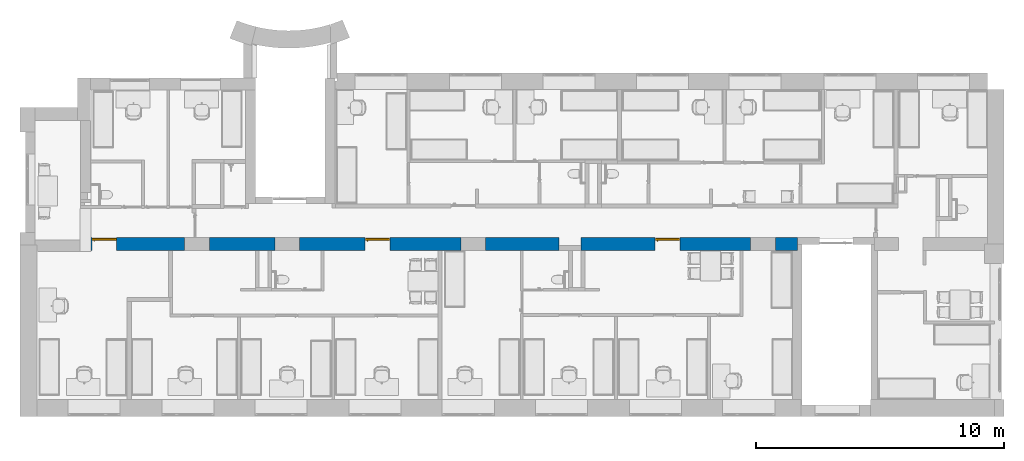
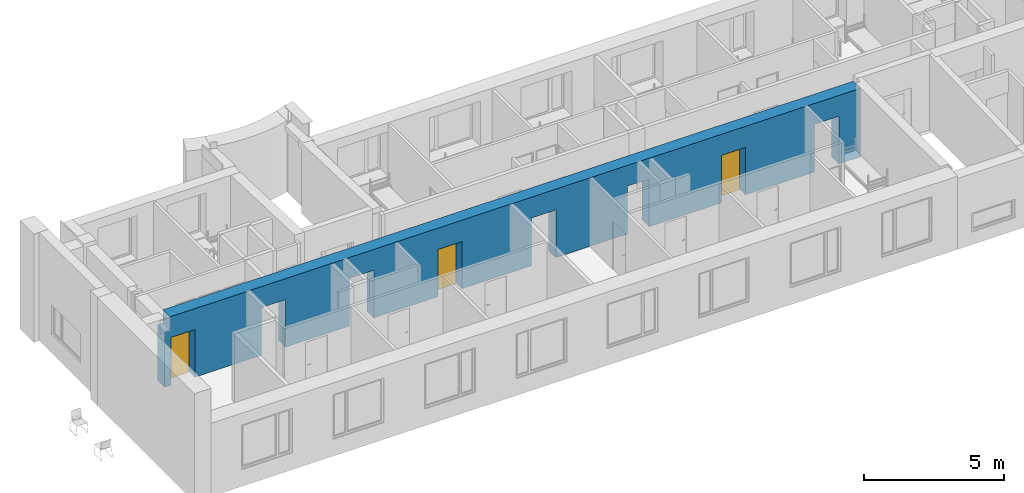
# One storey, part 16 of 46: 3 doors, 1 wall, 3 openings.
"""IFC2X3 building model written with IfcOpenShell, lengths in millimetres."""

from ifc_helpers import new_model, entity, si_unit, converted_unit, derived_unit, direction, frame, frame_2d, origin, place, context, subcontext, project, spatial, rectangle, extrude, faceted_brep, source, transform, mapped, material, material_list, layer, layer_set, type_object, type_shapes, element, fill, save


model = new_model("IFC2X3")

# Units and contexts
model_context = context("Model", 3, precision=0.01, world=origin(), true_north=direction((6.12303176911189e-17, 1.0)))
body_context = subcontext(model_context, "Body", "Model", "MODEL_VIEW")
ifc_project = project(units=[si_unit("LENGTHUNIT", "METRE", prefix="MILLI"), si_unit("AREAUNIT", "SQUARE_METRE"), si_unit("VOLUMEUNIT", "CUBIC_METRE"), converted_unit("PLANEANGLEUNIT", "DEGREE", entity("IfcRatioMeasure", 0.0174532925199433), si_unit("PLANEANGLEUNIT", "RADIAN"), dimensions=[0, 0, 0, 0, 0, 0, 0]), si_unit("MASSUNIT", "GRAM", prefix="KILO"), derived_unit("MASSDENSITYUNIT", [(si_unit("MASSUNIT", "GRAM", prefix="KILO"), 1), (si_unit("LENGTHUNIT", "METRE"), -3)]), si_unit("TIMEUNIT", "SECOND"), si_unit("FREQUENCYUNIT", "HERTZ"), si_unit("THERMODYNAMICTEMPERATUREUNIT", "DEGREE_CELSIUS"), derived_unit("THERMALTRANSMITTANCEUNIT", [(si_unit("MASSUNIT", "GRAM", prefix="KILO"), 1), (si_unit("THERMODYNAMICTEMPERATUREUNIT", "KELVIN"), -1), (si_unit("TIMEUNIT", "SECOND"), -3)]), derived_unit("VOLUMETRICFLOWRATEUNIT", [(si_unit("LENGTHUNIT", "METRE"), 3), (si_unit("TIMEUNIT", "SECOND"), -1)]), si_unit("ELECTRICCURRENTUNIT", "AMPERE"), si_unit("ELECTRICVOLTAGEUNIT", "VOLT"), si_unit("POWERUNIT", "WATT"), si_unit("FORCEUNIT", "NEWTON", prefix="KILO"), si_unit("ILLUMINANCEUNIT", "LUX"), si_unit("LUMINOUSFLUXUNIT", "LUMEN"), si_unit("LUMINOUSINTENSITYUNIT", "CANDELA"), derived_unit("USERDEFINED", [(si_unit("MASSUNIT", "GRAM", prefix="KILO"), -1), (si_unit("LENGTHUNIT", "METRE"), -2), (si_unit("TIMEUNIT", "SECOND"), 3), (si_unit("LUMINOUSFLUXUNIT", "LUMEN"), 1)]), derived_unit("LINEARVELOCITYUNIT", [(si_unit("LENGTHUNIT", "METRE"), 1), (si_unit("TIMEUNIT", "SECOND"), -1)]), si_unit("PRESSUREUNIT", "PASCAL"), derived_unit("USERDEFINED", [(si_unit("LENGTHUNIT", "METRE"), -2), (si_unit("MASSUNIT", "GRAM", prefix="KILO"), 1), (si_unit("TIMEUNIT", "SECOND"), -2)]), derived_unit("LINEARFORCEUNIT", [(si_unit("MASSUNIT", "GRAM", prefix="KILO"), 1), (si_unit("LENGTHUNIT", "METRE"), 1), (si_unit("TIMEUNIT", "SECOND"), -2), (si_unit("LENGTHUNIT", "METRE"), -1)]), derived_unit("PLANARFORCEUNIT", [(si_unit("MASSUNIT", "GRAM", prefix="KILO"), 1), (si_unit("LENGTHUNIT", "METRE"), 1), (si_unit("TIMEUNIT", "SECOND"), -2), (si_unit("LENGTHUNIT", "METRE"), -2)])], contexts=[model_context])

# Site, building, storey
site_placement = place(None, origin())
site = spatial("IfcSite", under=ifc_project, at=site_placement, Name="Default", CompositionType="ELEMENT")
building_placement = place(site_placement, origin())
building = spatial("IfcBuilding", under=site, at=building_placement, Name="SMA ARH", CompositionType="ELEMENT")
storey_placement = place(building_placement, frame((0.0, 0.0, 9910.0)))
storey = spatial("IfcBuildingStorey", under=building, at=storey_placement, Name="4 Korrus", CompositionType="ELEMENT", Elevation=9909.9999999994)

# Wall, openings, doors
ifc_material_1 = material(Name="_ol.olev sein")
ifc_layer = layer(ifc_material_1, 510.0)
ifc_layer_set = layer_set([ifc_layer], Name="Basic Wall:Generic - 510mm")
wall_type = type_object("IfcWallType", Name="Basic Wall:Generic - 510mm", PredefinedType="STANDARD", material=ifc_layer_set)
wall_placement = place(storey_placement, frame((1941.80783715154, 6265.0, 0.0)))
wall = element("IfcWall", 1, at=wall_placement, inside=storey, type_object=wall_type, Name="Basic Wall:Generic - 510mm", ObjectType="Basic Wall:Generic - 510mm", context=body_context, shape_type="Brep", body=[
    faceted_brep([(28698.1921628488, -255.0, 0.0), (28698.1921628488, -255.0, 3001.0500000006), (28508.1921628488, -255.0, 3001.0500000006), (17646.1921628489, -255.0, 3001.0500000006), (17530.1921628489, -255.0, 3001.0500000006), (14378.6921628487, -255.0, 3001.0500000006), (14216.1921628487, -255.0, 3001.0500000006), (225.0, -255.0, 3001.0500000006), (225.0, -255.0, 2431.98697047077), (0.0, -255.0, 2431.98697047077), (0.0, -255.0, 10.0), (253.192162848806, -255.0, 10.0), (253.192162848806, -255.0, 2090.0), (1253.19216284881, -255.0, 2090.0), (1253.19216284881, -255.0, 10.0), (3988.19216284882, -255.0, 10.0), (3988.19216284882, -255.0, 2090.0), (4988.19216284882, -255.0, 2090.0), (4988.19216284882, -255.0, 10.0), (7633.1921628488, -255.0, 10.0), (7633.1921628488, -255.0, 2090.0), (8633.1921628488, -255.0, 2090.0), (8633.1921628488, -255.0, 10.0), (11268.1921628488, -255.0, 10.0), (11268.1921628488, -255.0, 2070.0), (12268.1921628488, -255.0, 2070.0), (12268.1921628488, -255.0, 10.0), (14216.1921628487, -255.0, 10.0), (14378.6921628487, -255.0, 10.0), (15133.1921628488, -255.0, 10.0), (15133.1921628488, -255.0, 2090.0), (16133.1921628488, -255.0, 2090.0), (16133.1921628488, -255.0, 10.0), (19092.1921628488, -255.0, 10.0), (19092.1921628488, -255.0, 2090.0), (19978.1921628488, -255.0, 2090.0), (19978.1921628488, -255.0, 10.0), (22961.4806447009, -255.0, 10.0), (22961.4806447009, -255.0, 2080.0), (23961.4806447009, -255.0, 2080.0), (23961.4806447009, -255.0, 10.0), (26808.1921628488, -255.0, 10.0), (26808.1921628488, -255.0, 2090.0), (27808.1921628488, -255.0, 2090.0), (27808.1921628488, -255.0, 10.0), (28508.1921628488, -255.0, 10.0), (28508.1921628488, -255.0, 0.0), (225.0, 255.0, 3001.0500000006), (4293.51346331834, 255.0, 3001.0500000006), (4456.01346331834, 255.0, 3001.0500000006), (28508.1921628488, 255.0, 3001.0500000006), (28698.1921628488, 255.0, 3001.0500000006), (28698.1921628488, 255.0, 10.0), (27808.1921628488, 255.0, 10.0), (27808.1921628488, 255.0, 2090.0), (26808.1921628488, 255.0, 2090.0), (26808.1921628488, 255.0, 10.0), (23961.4806447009, 255.0, 10.0), (23961.4806447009, 255.0, 2080.0), (22961.4806447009, 255.0, 2080.0), (22961.4806447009, 255.0, 10.0), (19978.1921628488, 255.0, 10.0), (19978.1921628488, 255.0, 2090.0), (19092.1921628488, 255.0, 2090.0), (19092.1921628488, 255.0, 10.0), (16133.1921628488, 255.0, 10.0), (16133.1921628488, 255.0, 2090.0), (15133.1921628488, 255.0, 2090.0), (15133.1921628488, 255.0, 10.0), (12268.1921628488, 255.0, 10.0), (12268.1921628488, 255.0, 2070.0), (11268.1921628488, 255.0, 2070.0), (11268.1921628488, 255.0, 10.0), (8633.19216284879, 255.0, 10.0), (8633.1921628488, 255.0, 2090.0), (7633.1921628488, 255.0, 2090.0), (7633.1921628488, 255.0, 10.0), (4988.19216284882, 255.0, 10.0), (4988.19216284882, 255.0, 2090.0), (3988.19216284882, 255.0, 2090.0), (3988.19216284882, 255.0, 10.0), (1253.19216284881, 255.0, 10.0), (1253.19216284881, 255.0, 2090.0), (253.192162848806, 255.0, 2090.0), (253.192162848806, 255.0, 10.0), (223.192162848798, 255.0, 10.0), (223.192162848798, 255.0, 0.0), (0.0, 255.0, 0.0), (0.0, 255.0, 2431.98697047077), (225.0, 255.0, 2431.98697047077), (28508.1921628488, 225.0, 0.0), (28698.1921628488, 225.0, 0.0), (28698.1921628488, -25.0, 0.0), (28698.1921628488, 225.0, 10.0), (28698.1921628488, -25.0, 3001.0500000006), (28508.1921628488, 225.0, 10.0), (0.0, 155.0, 0.0), (0.0, 0.0, 0.0), (0.0, 0.0, 10.0), (0.0, 155.0, 2431.98697047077), (223.192162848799, 0.0, 10.0), (223.192162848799, 0.0, 0.0)], [[[0, 1, 2, 3, 4, 5, 6, 7, 8, 9, 10, 11, 12, 13, 14, 15, 16, 17, 18, 19, 20, 21, 22, 23, 24, 25, 26, 27, 28, 29, 30, 31, 32, 33, 34, 35, 36, 37, 38, 39, 40, 41, 42, 43, 44, 45, 46]], [[47, 48, 49, 50, 51, 52, 53, 54, 55, 56, 57, 58, 59, 60, 61, 62, 63, 64, 65, 66, 67, 68, 69, 70, 71, 72, 73, 74, 75, 76, 77, 78, 79, 80, 81, 82, 83, 84, 85, 86, 87, 88, 89]], [[0, 46, 90, 91, 92]], [[1, 0, 92, 91, 93, 52, 51, 94]], [[7, 6, 5, 4, 3, 2, 1, 94, 51, 50, 49, 48, 47]], [[13, 82, 81, 14]], [[82, 13, 12, 83]], [[83, 12, 11, 84]], [[25, 70, 69, 26]], [[70, 25, 24, 71]], [[71, 24, 23, 72]], [[39, 58, 57, 40]], [[58, 39, 38, 59]], [[59, 38, 37, 60]], [[42, 55, 54, 43]], [[55, 42, 41, 56]], [[43, 54, 53, 44]], [[34, 63, 62, 35]], [[63, 34, 33, 64]], [[30, 67, 66, 31]], [[67, 30, 29, 68]], [[31, 66, 65, 32]], [[20, 75, 74, 21]], [[75, 20, 19, 76]], [[21, 74, 73, 22]], [[16, 79, 78, 17]], [[79, 16, 15, 80]], [[17, 78, 77, 18]], [[93, 95, 45, 44, 53, 52]], [[45, 95, 90, 46]], [[35, 62, 61, 36]], [[88, 87, 96, 97, 98, 10, 9, 99]], [[89, 88, 99, 9, 8]], [[7, 47, 89, 8]], [[100, 98, 97, 101]], [[85, 100, 101, 86]], [[95, 93, 91, 90]], [[98, 100, 85, 84, 11, 10]], [[15, 14, 81, 80]], [[19, 18, 77, 76]], [[23, 22, 73, 72]], [[29, 28, 27, 26, 69, 68]], [[33, 32, 65, 64]], [[37, 36, 61, 60]], [[41, 40, 57, 56]], [[87, 86, 101, 97, 96]]]),
])
opening_1_placement = place(wall_placement, frame((12268.1921628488, 255.0, 0.0)))
opening_1 = element("IfcOpeningElement", 2, at=opening_1_placement, cuts=wall, Name="SMA_D01, 1-poolne:SU-P-04 - 1000x2070 EI-30:1", ObjectType="Opening", context=body_context, shape_type="SweptSolid", body=[
    extrude(rectangle(XDim=2069.99999999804, YDim=1000.0, at=frame_2d((1034.99999999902, 500.0), x_axis=(1.0, 0.0))), frame((0.0, 0.0, 0.0), z_axis=(0.0, -1.0, 0.0), x_axis=(0.0, 0.0, 1.0)), (0.0, 0.0, 1.0), 510.0),
])
opening_2_placement = place(wall_placement, frame((1253.19216284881, 255.0, 0.0)))
opening_2 = element("IfcOpeningElement", 3, at=opening_2_placement, cuts=wall, Name="SMA_D01, 1-poolne:SU-P-09 - 1000x2090:1", ObjectType="Opening", context=body_context, shape_type="SweptSolid", body=[
    extrude(rectangle(XDim=2089.99999999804, YDim=1000.0, at=frame_2d((1044.99999999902, 500.0), x_axis=(1.0, 0.0))), frame((0.0, 0.0, 0.0), z_axis=(0.0, -1.0, 0.0), x_axis=(0.0, 0.0, 1.0)), (0.0, 0.0, 1.0), 510.0),
])
opening_3_placement = place(wall_placement, frame((23961.4806447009, 255.0, 0.0)))
opening_3 = element("IfcOpeningElement", 4, at=opening_3_placement, cuts=wall, Name="SMA_D01, 1-poolne:SU-P-04 - 1000x2080 EI-30:1", ObjectType="Opening", context=body_context, shape_type="SweptSolid", body=[
    extrude(rectangle(XDim=2079.99999999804, YDim=1000.0, at=frame_2d((1039.99999999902, 499.999999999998), x_axis=(1.0, 0.0))), frame((0.0, 0.0, 0.0), z_axis=(0.0, -1.0, 0.0), x_axis=(0.0, 0.0, 1.0)), (0.0, 0.0, 1.0), 510.0),
])
ifc_material_2 = material(Name="EST. Metall. Alumiinium. Värvitud. RAL7023 (Concrete grey)")
ifc_material_3 = material(Name="<Unnamed>")
ifc_material_4 = material(Name="EST. Klaas. 3x. Default")
ifc_material_list_1 = material_list([ifc_material_2, ifc_material_3, ifc_material_2, ifc_material_2, ifc_material_3, ifc_material_3, ifc_material_4])
door_style_1 = type_object("IfcDoorStyle", Name="SMA_D01, 1-poolne:SU-P-04 - 1000x2070 EI-30", ConstructionType="NOTDEFINED", OperationType="NOTDEFINED", ParameterTakesPrecedence=False, Sizeable=False, material=ifc_material_list_1)
shared_shape_1 = source(origin(), body_context, "Body", "Brep", [
    faceted_brep([(890.0, 20.0, 1112.5), (795.0, 20.0, 1112.5), (795.0, 15.0, 1112.5), (915.0, 15.0, 1112.5), (915.0, 58.0, 1112.5), (890.0, 58.0, 1112.5), (890.0, 20.0, 1087.5), (890.0, 58.0, 1087.5), (915.0, 58.0, 1087.5), (915.0, 15.0, 1087.5), (795.0, 15.0, 1087.5), (795.0, 20.0, 1087.5)], [[[0, 1, 2, 3, 4, 5]], [[6, 7, 8, 9, 10, 11]], [[5, 7, 6, 0]], [[4, 8, 7, 5]], [[3, 9, 8, 4]], [[2, 10, 9, 3]], [[1, 11, 10, 2]], [[0, 6, 11, 1]]]),
    faceted_brep([(877.500000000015, 58.0, 1137.5), (927.500000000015, 58.0, 1137.5), (927.500000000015, 60.0, 1137.5), (877.500000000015, 60.0, 1137.5), (877.500000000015, 58.0, 1017.5), (877.500000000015, 60.0, 1017.5), (927.500000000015, 60.0, 1017.5), (927.500000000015, 58.0, 1017.5)], [[[0, 1, 2, 3]], [[4, 5, 6, 7]], [[3, 5, 4, 0]], [[2, 6, 5, 3]], [[1, 7, 6, 2]], [[0, 4, 7, 1]]]),
    faceted_brep([(890.0, 150.0, 1112.5), (890.0, 112.0, 1112.5), (915.0, 112.0, 1112.5), (915.0, 155.0, 1112.5), (795.0, 155.0, 1112.5), (795.0, 150.0, 1112.5), (890.0, 150.0, 1087.5), (795.0, 150.0, 1087.5), (795.0, 155.0, 1087.5), (915.0, 155.0, 1087.5), (915.0, 112.0, 1087.5), (890.0, 112.0, 1087.5)], [[[0, 1, 2, 3, 4, 5]], [[6, 7, 8, 9, 10, 11]], [[1, 0, 6, 11]], [[2, 1, 11, 10]], [[3, 2, 10, 9]], [[4, 3, 9, 8]], [[5, 4, 8, 7]], [[0, 5, 7, 6]]]),
    faceted_brep([(877.500000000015, 112.0, 1137.5), (877.500000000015, 110.0, 1137.5), (927.500000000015, 110.0, 1137.5), (927.500000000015, 112.0, 1137.5), (877.500000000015, 112.0, 1017.5), (927.500000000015, 112.0, 1017.5), (927.500000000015, 110.0, 1017.5), (877.500000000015, 110.0, 1017.5)], [[[0, 1, 2, 3]], [[4, 5, 6, 7]], [[1, 0, 4, 7]], [[2, 1, 7, 6]], [[3, 2, 6, 5]], [[0, 3, 5, 4]]]),
    faceted_brep([(50.0, 20.0, 30.0), (50.0, 60.0, 30.0), (50.0, 60.0, 20.0), (50.0, 60.0, 0.0), (50.0, 20.0, 0.0), (950.0, 20.0, 30.0), (950.0, 20.0, 0.0), (950.0, 60.0, 0.0), (950.0, 60.0, 20.0), (950.0, 60.0, 30.0), (35.0, 60.0, 0.0), (35.0, 110.0, 0.0), (965.0, 110.0, 0.0), (965.0, 60.0, 0.0), (35.0, 110.0, 20.0), (35.0, 60.0, 20.0), (965.0, 110.0, 20.0), (965.0, 60.0, 20.0)], [[[0, 1, 2, 3, 4]], [[5, 6, 7, 8, 9]], [[4, 6, 5, 0]], [[3, 10, 11, 12, 13, 7, 6, 4]], [[9, 8, 2, 1]], [[0, 5, 9, 1]], [[14, 11, 10, 15]], [[16, 17, 13, 12]], [[15, 2, 8, 17, 16, 14]], [[10, 3, 2, 15]], [[14, 16, 12, 11]], [[17, 8, 7, 13]]]),
    faceted_brep([(10.0, 20.0, 0.0), (10.0, 110.0, 0.0), (35.0, 110.0, 0.0), (35.0, 60.0, 0.0), (50.0, 60.0, 0.0), (50.0, 20.0, 0.0), (50.0, 20.0, 2020.0), (950.0, 20.0, 2020.0), (950.0, 20.0, 0.0), (990.0, 20.0, 0.0), (990.0, 20.0, 2060.0), (10.0, 20.0, 2060.0), (50.0, 60.0, 2020.0), (35.0, 60.0, 2035.0), (965.0, 60.0, 2035.0), (965.0, 60.0, 0.0), (950.0, 60.0, 0.0), (950.0, 60.0, 2020.0), (35.0, 110.0, 2035.0), (10.0, 110.0, 2060.0), (990.0, 110.0, 2060.0), (990.0, 110.0, 0.0), (965.0, 110.0, 0.0), (965.0, 110.0, 2035.0)], [[[0, 1, 2, 3, 4, 5]], [[5, 6, 7, 8, 9, 10, 11, 0]], [[4, 12, 6, 5]], [[3, 13, 14, 15, 16, 17, 12, 4]], [[2, 18, 13, 3]], [[1, 19, 20, 21, 22, 23, 18, 2]], [[0, 11, 19, 1]], [[9, 21, 20, 10]], [[8, 16, 15, 22, 21, 9]], [[7, 17, 16, 8]], [[14, 23, 22, 15]], [[6, 12, 17, 7]], [[13, 18, 23, 14]], [[10, 20, 19, 11]]]),
    faceted_brep([(965.0, 60.0, 2035.0), (35.0, 60.0, 2035.0), (35.0, 60.0, 20.0), (965.0, 60.0, 20.0), (965.0, 110.0, 2035.0), (965.0, 110.0, 20.0), (35.0, 110.0, 20.0), (35.0, 110.0, 2035.0)], [[[0, 1, 2, 3]], [[4, 5, 6, 7]], [[3, 5, 4, 0]], [[2, 6, 5, 3]], [[1, 7, 6, 2]], [[0, 4, 7, 1]]]),
])
type_shapes(door_style_1, [shared_shape_1])
door_1_placement = place(opening_1_placement, frame((0.0, 0.0, 0.0), z_axis=(0.0, 0.0, 1.0), x_axis=(-1.0, 0.0, 0.0)))
door_1 = element("IfcDoor", 5, at=door_1_placement, inside=storey, type_object=door_style_1, material=ifc_material_2, Name="SMA_D01, 1-poolne:SU-P-04 - 1000x2070 EI-30", ObjectType="SMA_D01, 1-poolne:SU-P-04 - 1000x2070 EI-30", OverallHeight=2069.99999999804, OverallWidth=1000.0, context=body_context, shape_type="MappedRepresentation", body=[
    mapped(shared_shape_1, transform((0.0, 0.0, 0.0), scale=1.0)),
])
fill(opening_1, door_1)
ifc_material_list_2 = material_list([ifc_material_3, ifc_material_2, ifc_material_4, ifc_material_3, ifc_material_2, ifc_material_2, ifc_material_3])
door_style_2 = type_object("IfcDoorStyle", Name="SMA_D01, 1-poolne:SU-P-09 - 1000x2090", ConstructionType="NOTDEFINED", OperationType="NOTDEFINED", ParameterTakesPrecedence=False, Sizeable=False, material=ifc_material_list_2)
shared_shape_2 = source(origin(), body_context, "Body", "Brep", [
    faceted_brep([(890.0, 20.0, 1112.5), (795.0, 20.0, 1112.5), (795.0, 15.0, 1112.5), (915.0, 15.0, 1112.5), (915.0, 58.0, 1112.5), (890.0, 58.0, 1112.5), (890.0, 20.0, 1087.5), (890.0, 58.0, 1087.5), (915.0, 58.0, 1087.5), (915.0, 15.0, 1087.5), (795.0, 15.0, 1087.5), (795.0, 20.0, 1087.5)], [[[0, 1, 2, 3, 4, 5]], [[6, 7, 8, 9, 10, 11]], [[5, 7, 6, 0]], [[4, 8, 7, 5]], [[3, 9, 8, 4]], [[2, 10, 9, 3]], [[1, 11, 10, 2]], [[0, 6, 11, 1]]]),
    faceted_brep([(877.500000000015, 58.0, 1137.5), (927.500000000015, 58.0, 1137.5), (927.500000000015, 60.0, 1137.5), (877.500000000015, 60.0, 1137.5), (877.500000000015, 58.0, 1017.5), (877.500000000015, 60.0, 1017.5), (927.500000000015, 60.0, 1017.5), (927.500000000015, 58.0, 1017.5)], [[[0, 1, 2, 3]], [[4, 5, 6, 7]], [[3, 5, 4, 0]], [[2, 6, 5, 3]], [[1, 7, 6, 2]], [[0, 4, 7, 1]]]),
    faceted_brep([(890.0, 150.0, 1112.5), (890.0, 112.0, 1112.5), (915.0, 112.0, 1112.5), (915.0, 155.0, 1112.5), (795.0, 155.0, 1112.5), (795.0, 150.0, 1112.5), (890.0, 150.0, 1087.5), (795.0, 150.0, 1087.5), (795.0, 155.0, 1087.5), (915.0, 155.0, 1087.5), (915.0, 112.0, 1087.5), (890.0, 112.0, 1087.5)], [[[0, 1, 2, 3, 4, 5]], [[6, 7, 8, 9, 10, 11]], [[1, 0, 6, 11]], [[2, 1, 11, 10]], [[3, 2, 10, 9]], [[4, 3, 9, 8]], [[5, 4, 8, 7]], [[0, 5, 7, 6]]]),
    faceted_brep([(877.500000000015, 112.0, 1137.5), (877.500000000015, 110.0, 1137.5), (927.500000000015, 110.0, 1137.5), (927.500000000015, 112.0, 1137.5), (877.500000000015, 112.0, 1017.5), (927.500000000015, 112.0, 1017.5), (927.500000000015, 110.0, 1017.5), (877.500000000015, 110.0, 1017.5)], [[[0, 1, 2, 3]], [[4, 5, 6, 7]], [[1, 0, 4, 7]], [[2, 1, 7, 6]], [[3, 2, 6, 5]], [[0, 3, 5, 4]]]),
    faceted_brep([(50.0, 20.0, 30.0), (50.0, 60.0, 30.0), (50.0, 60.0, 20.0), (50.0, 60.0, 0.0), (50.0, 20.0, 0.0), (950.0, 20.0, 30.0), (950.0, 20.0, 0.0), (950.0, 60.0, 0.0), (950.0, 60.0, 20.0), (950.0, 60.0, 30.0), (35.0, 60.0, 0.0), (35.0, 110.0, 0.0), (965.0, 110.0, 0.0), (965.0, 60.0, 0.0), (35.0, 110.0, 20.0), (35.0, 60.0, 20.0), (965.0, 110.0, 20.0), (965.0, 60.0, 20.0)], [[[0, 1, 2, 3, 4]], [[5, 6, 7, 8, 9]], [[4, 6, 5, 0]], [[3, 10, 11, 12, 13, 7, 6, 4]], [[9, 8, 2, 1]], [[0, 5, 9, 1]], [[14, 11, 10, 15]], [[16, 17, 13, 12]], [[15, 2, 8, 17, 16, 14]], [[10, 3, 2, 15]], [[14, 16, 12, 11]], [[17, 8, 7, 13]]]),
    faceted_brep([(10.0, 20.0, 0.0), (10.0, 110.0, 0.0), (35.0, 110.0, 0.0), (35.0, 60.0, 0.0), (50.0, 60.0, 0.0), (50.0, 20.0, 0.0), (50.0, 20.0, 2040.0), (950.0, 20.0, 2040.0), (950.0, 20.0, 0.0), (990.0, 20.0, 0.0), (990.0, 20.0, 2080.0), (10.0, 20.0, 2080.0), (50.0, 60.0, 2040.0), (35.0, 60.0, 2055.0), (965.0, 60.0, 2055.0), (965.0, 60.0, 0.0), (950.0, 60.0, 0.0), (950.0, 60.0, 2040.0), (35.0, 110.0, 2055.0), (10.0, 110.0, 2080.0), (990.0, 110.0, 2080.0), (990.0, 110.0, 0.0), (965.0, 110.0, 0.0), (965.0, 110.0, 2055.0)], [[[0, 1, 2, 3, 4, 5]], [[5, 6, 7, 8, 9, 10, 11, 0]], [[4, 12, 6, 5]], [[3, 13, 14, 15, 16, 17, 12, 4]], [[2, 18, 13, 3]], [[1, 19, 20, 21, 22, 23, 18, 2]], [[0, 11, 19, 1]], [[9, 21, 20, 10]], [[8, 16, 15, 22, 21, 9]], [[7, 17, 16, 8]], [[14, 23, 22, 15]], [[6, 12, 17, 7]], [[13, 18, 23, 14]], [[10, 20, 19, 11]]]),
    faceted_brep([(965.0, 60.0, 2055.0), (35.0, 60.0, 2055.0), (35.0, 60.0, 20.0), (965.0, 60.0, 20.0), (965.0, 110.0, 2055.0), (965.0, 110.0, 20.0), (35.0, 110.0, 20.0), (35.0, 110.0, 2055.0)], [[[0, 1, 2, 3]], [[4, 5, 6, 7]], [[3, 5, 4, 0]], [[2, 6, 5, 3]], [[1, 7, 6, 2]], [[0, 4, 7, 1]]]),
])
type_shapes(door_style_2, [shared_shape_2])
door_2_placement = place(opening_2_placement, frame((0.0, 0.0, 0.0), z_axis=(0.0, 0.0, 1.0), x_axis=(-1.0, 0.0, 0.0)))
door_2 = element("IfcDoor", 6, at=door_2_placement, inside=storey, type_object=door_style_2, material=ifc_material_2, Name="SMA_D01, 1-poolne:SU-P-09 - 1000x2090", ObjectType="SMA_D01, 1-poolne:SU-P-09 - 1000x2090", OverallHeight=2089.99999999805, OverallWidth=1000.0, context=body_context, shape_type="MappedRepresentation", body=[
    mapped(shared_shape_2, transform((0.0, 0.0, 0.0), scale=1.0)),
])
fill(opening_2, door_2)
ifc_material_list_3 = material_list([ifc_material_3, ifc_material_3, ifc_material_2, ifc_material_3, ifc_material_4, ifc_material_2, ifc_material_2])
door_style_3 = type_object("IfcDoorStyle", Name="SMA_D01, 1-poolne:SU-P-04 - 1000x2080 EI-30", ConstructionType="NOTDEFINED", OperationType="NOTDEFINED", ParameterTakesPrecedence=False, Sizeable=False, material=ifc_material_list_3)
shared_shape_3 = source(origin(), body_context, "Body", "Brep", [
    faceted_brep([(890.0, 20.0, 1112.5), (795.0, 20.0, 1112.5), (795.0, 15.0, 1112.5), (915.0, 15.0, 1112.5), (915.0, 58.0, 1112.5), (890.0, 58.0, 1112.5), (890.0, 20.0, 1087.5), (890.0, 58.0, 1087.5), (915.0, 58.0, 1087.5), (915.0, 15.0, 1087.5), (795.0, 15.0, 1087.5), (795.0, 20.0, 1087.5)], [[[0, 1, 2, 3, 4, 5]], [[6, 7, 8, 9, 10, 11]], [[5, 7, 6, 0]], [[4, 8, 7, 5]], [[3, 9, 8, 4]], [[2, 10, 9, 3]], [[1, 11, 10, 2]], [[0, 6, 11, 1]]]),
    faceted_brep([(877.500000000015, 58.0, 1137.5), (927.500000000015, 58.0, 1137.5), (927.500000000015, 60.0, 1137.5), (877.500000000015, 60.0, 1137.5), (877.500000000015, 58.0, 1017.5), (877.500000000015, 60.0, 1017.5), (927.500000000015, 60.0, 1017.5), (927.500000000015, 58.0, 1017.5)], [[[0, 1, 2, 3]], [[4, 5, 6, 7]], [[3, 5, 4, 0]], [[2, 6, 5, 3]], [[1, 7, 6, 2]], [[0, 4, 7, 1]]]),
    faceted_brep([(890.0, 150.0, 1112.5), (890.0, 112.0, 1112.5), (915.0, 112.0, 1112.5), (915.0, 155.0, 1112.5), (795.0, 155.0, 1112.5), (795.0, 150.0, 1112.5), (890.0, 150.0, 1087.5), (795.0, 150.0, 1087.5), (795.0, 155.0, 1087.5), (915.0, 155.0, 1087.5), (915.0, 112.0, 1087.5), (890.0, 112.0, 1087.5)], [[[0, 1, 2, 3, 4, 5]], [[6, 7, 8, 9, 10, 11]], [[1, 0, 6, 11]], [[2, 1, 11, 10]], [[3, 2, 10, 9]], [[4, 3, 9, 8]], [[5, 4, 8, 7]], [[0, 5, 7, 6]]]),
    faceted_brep([(877.500000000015, 112.0, 1137.5), (877.500000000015, 110.0, 1137.5), (927.500000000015, 110.0, 1137.5), (927.500000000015, 112.0, 1137.5), (877.500000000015, 112.0, 1017.5), (927.500000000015, 112.0, 1017.5), (927.500000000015, 110.0, 1017.5), (877.500000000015, 110.0, 1017.5)], [[[0, 1, 2, 3]], [[4, 5, 6, 7]], [[1, 0, 4, 7]], [[2, 1, 7, 6]], [[3, 2, 6, 5]], [[0, 3, 5, 4]]]),
    faceted_brep([(50.0, 20.0, 30.0), (50.0, 60.0, 30.0), (50.0, 60.0, 20.0), (50.0, 60.0, 0.0), (50.0, 20.0, 0.0), (950.0, 20.0, 30.0), (950.0, 20.0, 0.0), (950.0, 60.0, 0.0), (950.0, 60.0, 20.0), (950.0, 60.0, 30.0), (35.0, 60.0, 0.0), (35.0, 110.0, 0.0), (965.0, 110.0, 0.0), (965.0, 60.0, 0.0), (35.0, 110.0, 20.0), (35.0, 60.0, 20.0), (965.0, 110.0, 20.0), (965.0, 60.0, 20.0)], [[[0, 1, 2, 3, 4]], [[5, 6, 7, 8, 9]], [[4, 6, 5, 0]], [[3, 10, 11, 12, 13, 7, 6, 4]], [[9, 8, 2, 1]], [[0, 5, 9, 1]], [[14, 11, 10, 15]], [[16, 17, 13, 12]], [[15, 2, 8, 17, 16, 14]], [[10, 3, 2, 15]], [[14, 16, 12, 11]], [[17, 8, 7, 13]]]),
    faceted_brep([(10.0, 20.0, 0.0), (10.0, 110.0, 0.0), (35.0, 110.0, 0.0), (35.0, 60.0, 0.0), (50.0, 60.0, 0.0), (50.0, 20.0, 0.0), (50.0, 20.0, 2030.0), (950.0, 20.0, 2030.0), (950.0, 20.0, 0.0), (990.0, 20.0, 0.0), (990.0, 20.0, 2070.0), (10.0, 20.0, 2070.0), (50.0, 60.0, 2030.0), (35.0, 60.0, 2045.0), (965.0, 60.0, 2045.0), (965.0, 60.0, 0.0), (950.0, 60.0, 0.0), (950.0, 60.0, 2030.0), (35.0, 110.0, 2045.0), (10.0, 110.0, 2070.0), (990.0, 110.0, 2070.0), (990.0, 110.0, 0.0), (965.0, 110.0, 0.0), (965.0, 110.0, 2045.0)], [[[0, 1, 2, 3, 4, 5]], [[5, 6, 7, 8, 9, 10, 11, 0]], [[4, 12, 6, 5]], [[3, 13, 14, 15, 16, 17, 12, 4]], [[2, 18, 13, 3]], [[1, 19, 20, 21, 22, 23, 18, 2]], [[0, 11, 19, 1]], [[9, 21, 20, 10]], [[8, 16, 15, 22, 21, 9]], [[7, 17, 16, 8]], [[14, 23, 22, 15]], [[6, 12, 17, 7]], [[13, 18, 23, 14]], [[10, 20, 19, 11]]]),
    faceted_brep([(965.0, 60.0, 2045.0), (35.0, 60.0, 2045.0), (35.0, 60.0, 20.0), (965.0, 60.0, 20.0), (965.0, 110.0, 2045.0), (965.0, 110.0, 20.0), (35.0, 110.0, 20.0), (35.0, 110.0, 2045.0)], [[[0, 1, 2, 3]], [[4, 5, 6, 7]], [[3, 5, 4, 0]], [[2, 6, 5, 3]], [[1, 7, 6, 2]], [[0, 4, 7, 1]]]),
])
type_shapes(door_style_3, [shared_shape_3])
door_3_placement = place(opening_3_placement, frame((0.0, 0.0, 0.0), z_axis=(0.0, 0.0, 1.0), x_axis=(-1.0, 0.0, 0.0)))
door_3 = element("IfcDoor", 7, at=door_3_placement, inside=storey, type_object=door_style_3, material=ifc_material_2, Name="SMA_D01, 1-poolne:SU-P-04 - 1000x2080 EI-30", ObjectType="SMA_D01, 1-poolne:SU-P-04 - 1000x2080 EI-30", OverallHeight=2079.99999999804, OverallWidth=999.999999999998, context=body_context, shape_type="MappedRepresentation", body=[
    mapped(shared_shape_3, transform((0.0, 0.0, 0.0), scale=1.0)),
])
fill(opening_3, door_3)

save(model, "model.ifc")
